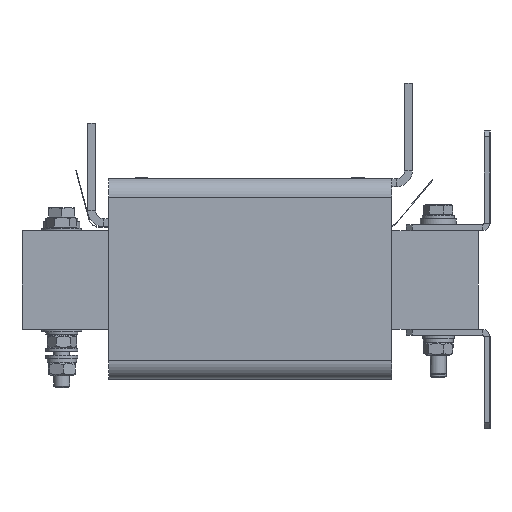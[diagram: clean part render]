
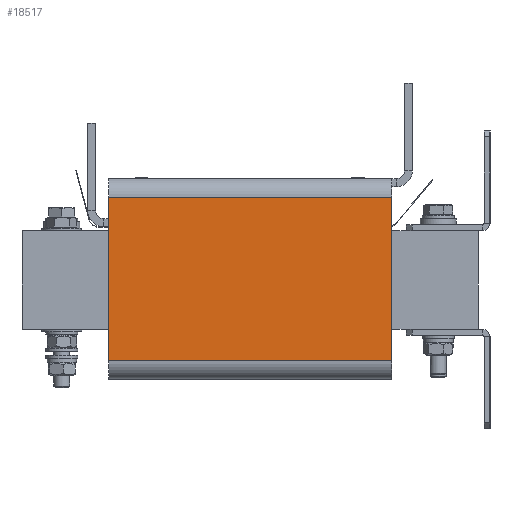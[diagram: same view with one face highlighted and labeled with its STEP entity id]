
A CAD part, left-side view. The second image highlights one B-rep face of the part: STEP entity #18517.
In plain terms, the highlighted planar face has unit normal (-1, 0, 0).
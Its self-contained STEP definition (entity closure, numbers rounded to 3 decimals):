
#1108=LINE('',#28051,#2820);
#1123=LINE('',#28089,#2835);
#1148=LINE('',#28157,#2860);
#1149=LINE('',#28159,#2861);
#2820=VECTOR('',#22963,10.);
#2835=VECTOR('',#22988,10.);
#2860=VECTOR('',#23039,10.);
#2861=VECTOR('',#23042,10.);
#4247=PLANE('',#19828);
#5406=FACE_OUTER_BOUND('',#6609,.T.);
#6609=EDGE_LOOP('',(#14352,#14353,#14354,#14355));
#8624=VERTEX_POINT('',#28048);
#8625=VERTEX_POINT('',#28050);
#8642=VERTEX_POINT('',#28086);
#8643=VERTEX_POINT('',#28088);
#10673=EDGE_CURVE('',#8624,#8625,#1108,.T.);
#10692=EDGE_CURVE('',#8642,#8643,#1123,.T.);
#10727=EDGE_CURVE('',#8643,#8624,#1148,.T.);
#10728=EDGE_CURVE('',#8642,#8625,#1149,.T.);
#14352=ORIENTED_EDGE('',*,*,#10727,.F.);
#14353=ORIENTED_EDGE('',*,*,#10692,.F.);
#14354=ORIENTED_EDGE('',*,*,#10728,.T.);
#14355=ORIENTED_EDGE('',*,*,#10673,.F.);
#18517=ADVANCED_FACE('',(#5406),#4247,.T.);
#19828=AXIS2_PLACEMENT_3D('',#28158,#23040,#23041);
#22963=DIRECTION('',(0.,0.,-1.));
#22988=DIRECTION('',(0.,0.,1.));
#23039=DIRECTION('',(0.,-1.,0.));
#23040=DIRECTION('center_axis',(-1.,0.,0.));
#23041=DIRECTION('ref_axis',(0.,0.,1.));
#23042=DIRECTION('',(0.,-1.,0.));
#28048=CARTESIAN_POINT('',(-143.3,-71.,41.54));
#28050=CARTESIAN_POINT('',(-143.3,-71.,-40.54));
#28051=CARTESIAN_POINT('',(-143.3,-71.,41.54));
#28086=CARTESIAN_POINT('',(-143.3,71.,-40.54));
#28088=CARTESIAN_POINT('',(-143.3,71.,41.54));
#28089=CARTESIAN_POINT('',(-143.3,71.,41.54));
#28157=CARTESIAN_POINT('',(-143.3,0.,41.54));
#28158=CARTESIAN_POINT('Origin',(-143.3,0.,-40.54));
#28159=CARTESIAN_POINT('',(-143.3,0.,-40.54));
